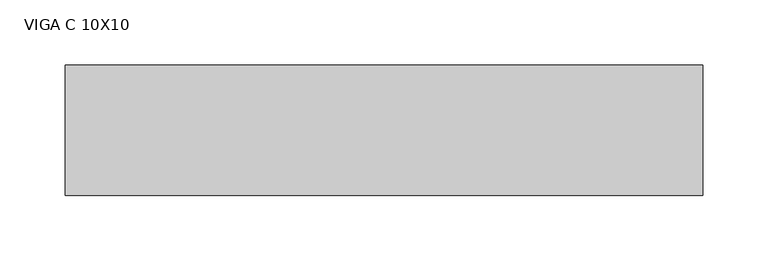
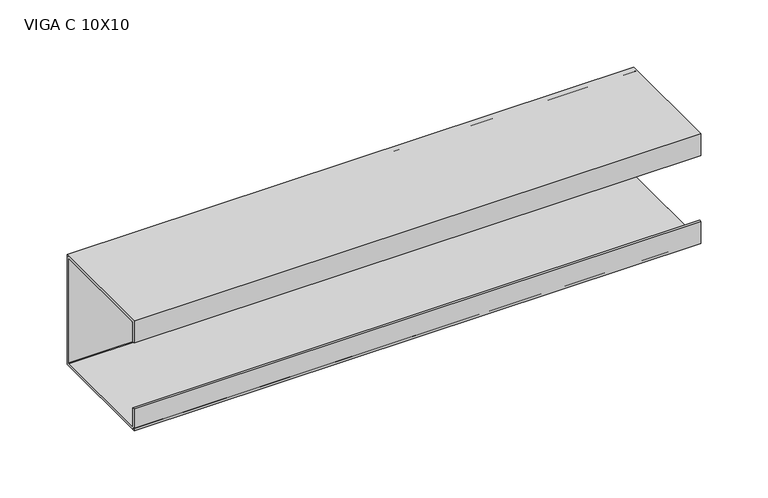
"""IFC4 building model written with IfcOpenShell, lengths in millimetres: beam geometry, VIGA PERFIL C AÇO : VIGA C 10X10."""

from ifc_helpers import new_model, si_unit, point, frame, frame_2d, origin, place, context, project, spatial, polyline, circle_curve, trimmed, segment, composite_curve, outline, extrude, source, transform, mapped, element, save


def viga_c_10x10_b83619fa(model_context):
    return source(origin(), model_context, "Body", "SweptSolid", [
        extrude(outline(polyline([(9.2, -50.0), (-90.8, -50.0), (-90.8, -30.0), (-88.9, -30.0), (-88.9, -48.1), (7.3, -48.1), (7.3, 48.1), (-88.9, 48.1), (-88.9, 30.0), (-90.8, 30.0), (-90.8, 50.0), (9.2, 50.0), (9.2, -50.0)])), frame((-245.0, 0.0, 0.0), z_axis=(1.0, 0.0, 0.0), x_axis=(0.0, 1.0, 0.0)), (0.0, 0.0, 1.0), 488.0),
        extrude(outline(composite_curve([segment(trimmed(circle_curve(frame_2d((5.4, -46.2)), 3.8), [point((9.2, -46.2))], [point((5.4, -50.0))], False, "CARTESIAN"), True, "CONTINUOUS"), segment(polyline([(5.4, -50.0), (-87.0, -50.0)]), True, "CONTINUOUS"), segment(trimmed(circle_curve(frame_2d((-87.0, -46.2)), 3.8), [point((-87.0, -50.0))], [point((-90.8, -46.2))], False, "CARTESIAN"), True, "CONTINUOUS"), segment(polyline([(-90.8, -46.2), (-90.8, -30.0), (-88.9, -30.0), (-88.9, -46.2)]), True, "CONTINUOUS"), segment(trimmed(circle_curve(frame_2d((-87.0, -46.2)), 1.9), [point((-88.9, -46.2))], [point((-87.0, -48.1))], True, "CARTESIAN"), True, "CONTINUOUS"), segment(polyline([(-87.0, -48.1), (5.4, -48.1)]), True, "CONTINUOUS"), segment(trimmed(circle_curve(frame_2d((5.4, -46.2)), 1.9), [point((5.4, -48.1))], [point((7.3, -46.2))], True, "CARTESIAN"), True, "CONTINUOUS"), segment(polyline([(7.3, -46.2), (7.3, 46.2)]), True, "CONTINUOUS"), segment(trimmed(circle_curve(frame_2d((5.4, 46.2)), 1.9), [point((7.3, 46.2))], [point((5.4, 48.1))], True, "CARTESIAN"), True, "CONTINUOUS"), segment(polyline([(5.4, 48.1), (-87.0, 48.1)]), True, "CONTINUOUS"), segment(trimmed(circle_curve(frame_2d((-87.0, 46.2)), 1.9), [point((-87.0, 48.1))], [point((-88.9, 46.2))], True, "CARTESIAN"), True, "CONTINUOUS"), segment(polyline([(-88.9, 46.2), (-88.9, 30.0), (-90.8, 30.0), (-90.8, 46.2)]), True, "CONTINUOUS"), segment(trimmed(circle_curve(frame_2d((-87.0, 46.2)), 3.8), [point((-90.8, 46.2))], [point((-87.0, 50.0))], False, "CARTESIAN"), True, "CONTINUOUS"), segment(polyline([(-87.0, 50.0), (5.4, 50.0)]), True, "CONTINUOUS"), segment(trimmed(circle_curve(frame_2d((5.4, 46.2)), 3.8), [point((5.4, 50.0))], [point((9.2, 46.2))], False, "CARTESIAN"), True, "CONTINUOUS"), segment(polyline([(9.2, 46.2), (9.2, -46.2)]), True, "CONTINUOUS")], self_intersect=False)), frame((-245.0, 0.0, 0.0), z_axis=(1.0, 0.0, 0.0), x_axis=(0.0, 1.0, 0.0)), (0.0, 0.0, 1.0), 488.0),
    ])


if __name__ == "__main__":
    model = new_model("IFC4")
    model_context = context("Model", 3, world=origin())
    ifc_project = project(units=[si_unit("LENGTHUNIT", "METRE", prefix="MILLI")], contexts=[model_context])
    site = spatial("IfcSite", under=ifc_project)
    building = spatial("IfcBuilding", under=site)
    placement = place(None, origin())
    viga_c_10x10_shape = viga_c_10x10_b83619fa(model_context)
    element("IfcBeam", 1, ObjectType="VIGA PERFIL C AÇO : VIGA C 10X10", at=placement, inside=building, context=model_context, shape_type="MappedRepresentation", body=[
        mapped(viga_c_10x10_shape, transform((0.0, 0.0, 0.0), x_axis=(1.0, 0.0, 0.0), y_axis=(0.0, 1.0, 0.0), z_axis=(0.0, 0.0, 1.0))),
    ])
    save(model, "model.ifc")
